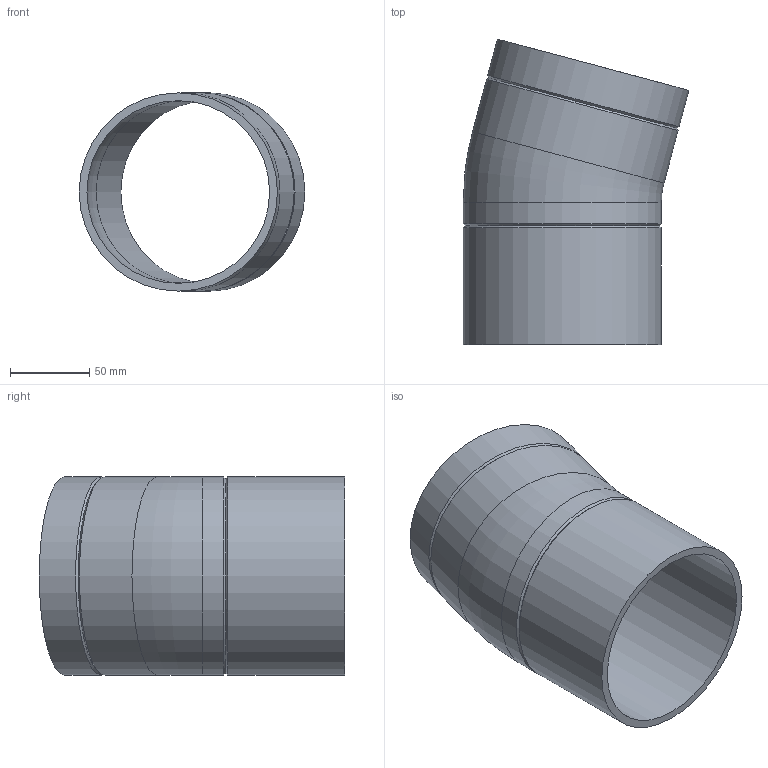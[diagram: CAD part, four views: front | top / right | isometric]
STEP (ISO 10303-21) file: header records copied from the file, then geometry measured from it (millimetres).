
FILE_DESCRIPTION(/* description */ (''),/* implementation_level */ '2;1');
FILE_NAME(/* name */ 'Z:\Geberit\Export\NewStep\PE Bogen Einzelteil_Ipart\stp\368015.stp',/* time_stamp */ '2014-04-02T11:56:01+02:00',/* author */ ('bruh'),/* organization */ (''),/* preprocessor_version */ 'ST-DEVELOPER v15.2',/* originating_system */ 'Autodesk Inventor 2014',/* authorisation */ '');
FILE_SCHEMA (('AUTOMOTIVE_DESIGN { 1 0 10303 214 3 1 1 }'));
Length unit declared in the file: millimetre
Products named in the file (1): 368015
Bounding box: 142.28 x 192.62 x 125 mm (x, y, z)
Volume: 329409.3 mm3; surface area: 139433.4 mm2
Topology: 1 solids, 1 shells, 14 faces, 28 edges, 16 vertices
Faces by surface type: cylinder 6, cone 4, torus 2, plane 2
Full cylindrical faces by diameter (mm): 115.2 x2, 125 x4
Entity records: 323 total; most frequent: DIRECTION 58, CARTESIAN_POINT 43, AXIS2_PLACEMENT_3D 29, EDGE_LOOP 28, ORIENTED_EDGE 28, FACE_BOUND 16, STYLED_ITEM 15, CIRCLE 14
